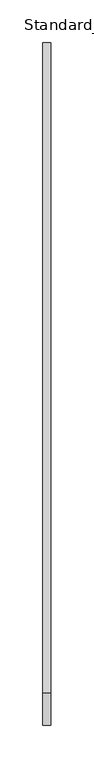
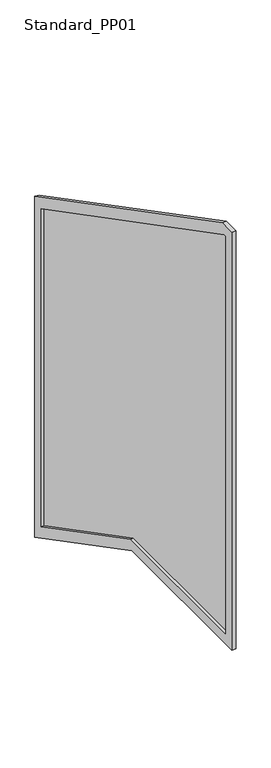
"""IFC4 building model written with IfcOpenShell, lengths in millimetres: railing geometry, Baluster-Landing-Panel-VIVA-STRUC-Lower : Standard_PP01."""

from ifc_helpers import new_model, si_unit, frame, origin, place, context, project, spatial, polyline, outline, extrude, source, transform, mapped, element, save


def standard_pp01_3f05e8e4(model_context):
    return source(origin(), model_context, "Body", "SweptSolid", [
        extrude(outline(polyline([(-388.4148692, -77.474387), (-773.9140023, -77.474387), (-773.9140023, 906.145), (-767.592344, 906.145), (-25.4, 519.7841206), (-25.4, -266.4479668), (-388.4148692, -77.474387)])), frame((14.2584857, 0.0, 0.0), z_axis=(1.0, 0.0, 0.0), x_axis=(0.0, 1.0, 0.0)), (0.0, 0.0, 1.0), 2.9972),
        extrude(outline(polyline([(0.0, -308.3058714), (-394.6302097, -102.874387), (-799.3140023, -102.874387), (-799.3140023, 931.545), (-761.3770035, 931.545), (0.0, 535.1972189), (0.0, -308.3058714)]), holes=[polyline([(-773.9140023, 906.145), (-773.9140023, -77.474387), (-388.4148692, -77.474387), (-25.4, -266.4479668), (-25.4, 519.7841206), (-767.592344, 906.145), (-773.9140023, 906.145)])]), frame((7.6036857, 0.0, 0.0), z_axis=(1.0, 0.0, 0.0), x_axis=(0.0, 1.0, 0.0)), (0.0, 0.0, 1.0), 9.652),
    ])


if __name__ == "__main__":
    model = new_model("IFC4")
    model_context = context("Model", 3, world=origin())
    ifc_project = project(units=[si_unit("LENGTHUNIT", "METRE", prefix="MILLI")], contexts=[model_context])
    site = spatial("IfcSite", under=ifc_project)
    building = spatial("IfcBuilding", under=site)
    placement = place(None, origin())
    standard_pp01_shape = standard_pp01_3f05e8e4(model_context)
    element("IfcRailing", 1, ObjectType="Baluster-Landing-Panel-VIVA-STRUC-Lower : Standard_PP01", at=placement, inside=building, context=model_context, shape_type="MappedRepresentation", body=[
        mapped(standard_pp01_shape, transform((0.0, 0.0, 0.0), x_axis=(1.0, 0.0, 0.0), y_axis=(0.0, 1.0, 0.0), z_axis=(0.0, 0.0, 1.0))),
    ])
    save(model, "model.ifc")
